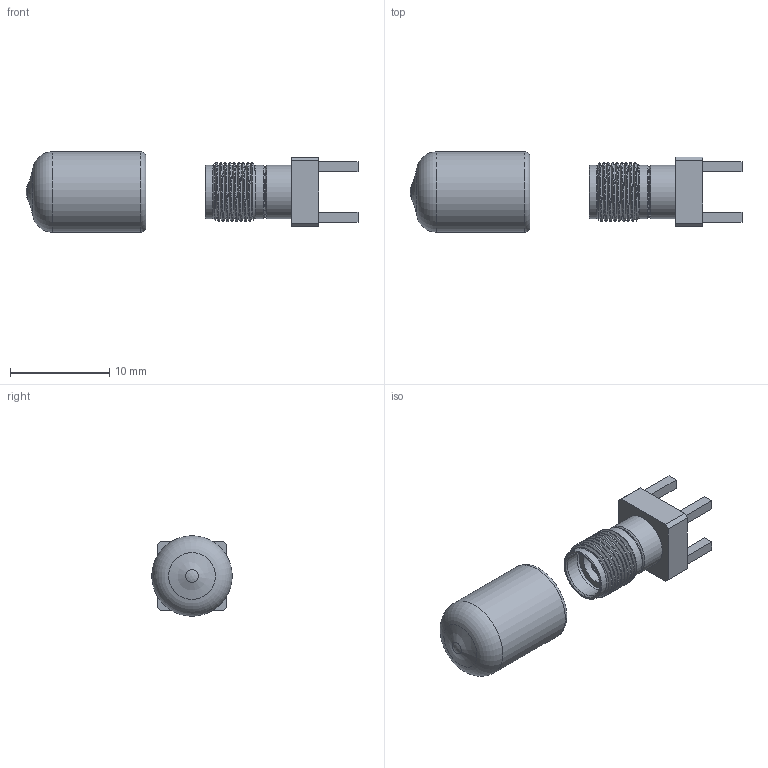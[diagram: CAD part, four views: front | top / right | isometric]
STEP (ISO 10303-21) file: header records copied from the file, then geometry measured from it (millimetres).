
FILE_DESCRIPTION((''),'2;1');
FILE_NAME('G:\Research-3\各類3D models\組合圖\CONNECTOR\58(3.50mm)\58-20004-12040B.stp','2018-09-28T09:06:23',('Rich'),(''),'Autodesk Inventor 2009','Autodesk Inventor 2009','');
FILE_SCHEMA(('AUTOMOTIVE_DESIGN { 1 0 10303 214 1 1 1 1 }'));
Length unit declared in the file: millimetre
Products named in the file (8): 58-20004-12040B; 101-2212-12X040A; 101-2197-123040B; 103-1508-226050B; 103-1501-226080A; 102-1139-700000A; 102-1206-700000B; 108-0065-900000B
Assembly tree (7 placements, depth 2):
  58-20004-12040B
    101-2212-12X040A
    101-2197-123040B
    103-1508-226050B
    103-1501-226080A
    102-1139-700000A
    102-1206-700000B
    108-0065-900000B
Bounding box: 33.42 x 8.09 x 8.09 mm (x, y, z)
Volume: 551.5 mm3; surface area: 1420.2 mm2
Topology: 7 solids, 7 shells, 210 faces, 533 edges, 357 vertices
Faces by surface type: plane 81, cylinder 61, cone 51, torus 11, bspline 3, sphere 3
Full cylindrical faces by diameter (mm): 0.305 x2, 0.31 x1, 0.34 x1, 0.57 x8, 0.76 x1, 0.95 x1, 0.97 x1, 1 x1, 1.02 x1, 1.14 x1, 1.19 x1, 1.31 x1, 1.33 x1, 1.52 x2, 1.75 x1, 2.19 x1, 2.62 x1, 3.06 x1, 3.5 x2, 3.86 x1, 4.24 x1, 4.27 x1, 4.3 x1, 4.33 x1, 4.61 x1, 4.85 x1, 5.35 x3, 5.39 x2, 6.1 x1, 8.1 x1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
Entity records: 10540 total; most frequent: CARTESIAN_POINT 5639, DIRECTION 974, ORIENTED_EDGE 912, EDGE_CURVE 456, AXIS2_PLACEMENT_3D 424, VERTEX_POINT 342, EDGE_LOOP 308, FACE_OUTER_BOUND 209
